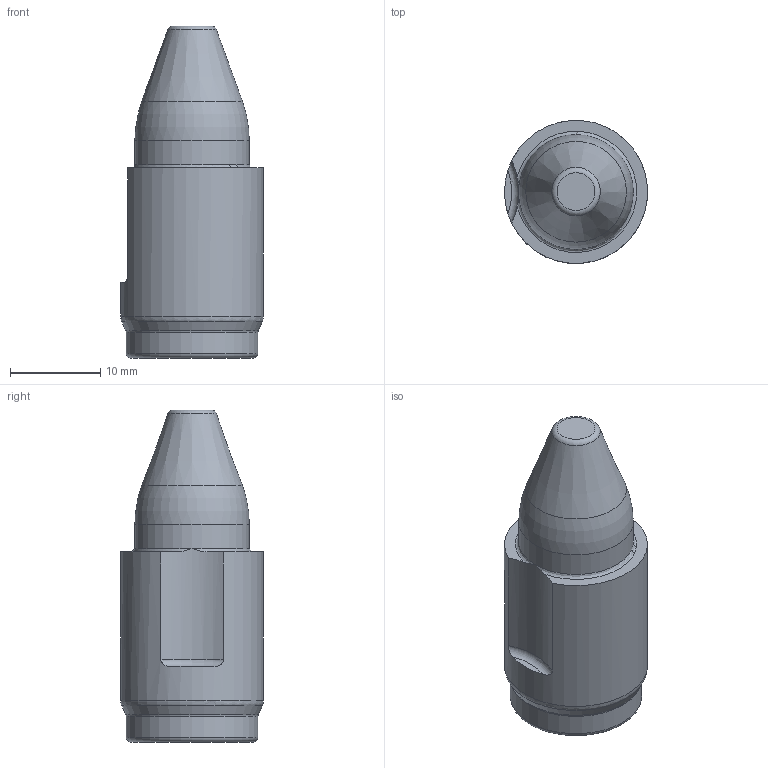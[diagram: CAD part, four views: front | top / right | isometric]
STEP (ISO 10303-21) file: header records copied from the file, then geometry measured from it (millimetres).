
FILE_DESCRIPTION (( 'STEP AP214' ), '1' );
FILE_NAME ('P-.500-.100-F.STEP', '2023-12-04T13:18:08', ( '' ), ( '' ), 'SwSTEP 2.0', 'SolidWorks 2020', '' );
FILE_SCHEMA (( 'AUTOMOTIVE_DESIGN' ));
Length unit declared in the file: inch
Products named in the file (1): P-.500-.100-F
Bounding box: 15.86 x 15.85 x 36.83 mm (x, y, z)
Volume: 5314.5 mm3; surface area: 1800 mm2
Topology: 1 solids, 1 shells, 17 faces, 37 edges, 22 vertices
Faces by surface type: torus 7, cylinder 4, plane 4, cone 2
Full cylindrical faces by diameter (mm): 12.7 x1, 14.605 x1, 15.875 x1
Entity records: 454 total; most frequent: CARTESIAN_POINT 95, DIRECTION 74, ORIENTED_EDGE 48, AXIS2_PLACEMENT_3D 36, EDGE_LOOP 27, FACE_OUTER_BOUND 25, EDGE_CURVE 24, VERTEX_POINT 19
